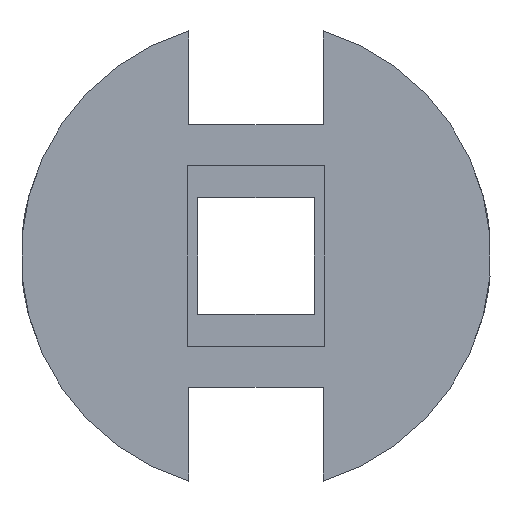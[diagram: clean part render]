
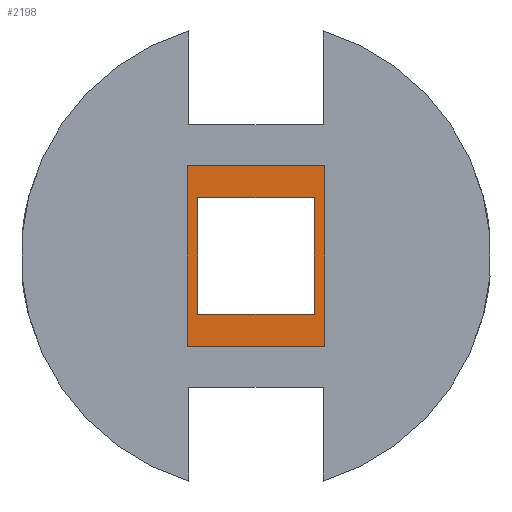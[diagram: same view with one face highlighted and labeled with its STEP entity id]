
A CAD part, left-side view. The second image highlights one B-rep face of the part: STEP entity #2198.
In plain terms, the highlighted planar face has unit normal (-1, 0, 0).
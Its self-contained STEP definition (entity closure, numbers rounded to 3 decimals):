
#749 = PLANE('',#750);
#750 = AXIS2_PLACEMENT_3D('',#751,#752,#753);
#751 = CARTESIAN_POINT('',(135.7,-4.7,-6.2));
#752 = DIRECTION('',(0.,0.,1.));
#753 = DIRECTION('',(1.,0.,-0.));
#775 = PLANE('',#776);
#776 = AXIS2_PLACEMENT_3D('',#777,#778,#779);
#777 = CARTESIAN_POINT('',(135.7,-4.7,-6.2));
#778 = DIRECTION('',(-0.,1.,0.));
#779 = DIRECTION('',(0.,0.,1.));
#801 = PLANE('',#802);
#802 = AXIS2_PLACEMENT_3D('',#803,#804,#805);
#803 = CARTESIAN_POINT('',(135.7,-4.7,6.2));
#804 = DIRECTION('',(0.,0.,1.));
#805 = DIRECTION('',(1.,0.,-0.));
#825 = PLANE('',#826);
#826 = AXIS2_PLACEMENT_3D('',#827,#828,#829);
#827 = CARTESIAN_POINT('',(135.7,4.7,-6.2));
#828 = DIRECTION('',(-0.,1.,0.));
#829 = DIRECTION('',(0.,0.,1.));
#991 = PLANE('',#992);
#992 = AXIS2_PLACEMENT_3D('',#993,#994,#995);
#993 = CARTESIAN_POINT('',(135.7,-4.,-4.));
#994 = DIRECTION('',(0.,0.,1.));
#995 = DIRECTION('',(1.,0.,-0.));
#1017 = PLANE('',#1018);
#1018 = AXIS2_PLACEMENT_3D('',#1019,#1020,#1021);
#1019 = CARTESIAN_POINT('',(135.7,-4.,-4.));
#1020 = DIRECTION('',(-0.,1.,0.));
#1021 = DIRECTION('',(0.,0.,1.));
#1043 = PLANE('',#1044);
#1044 = AXIS2_PLACEMENT_3D('',#1045,#1046,#1047);
#1045 = CARTESIAN_POINT('',(135.7,-4.,4.));
#1046 = DIRECTION('',(0.,0.,1.));
#1047 = DIRECTION('',(1.,0.,-0.));
#1067 = PLANE('',#1068);
#1068 = AXIS2_PLACEMENT_3D('',#1069,#1070,#1071);
#1069 = CARTESIAN_POINT('',(135.7,4.,-4.));
#1070 = DIRECTION('',(-0.,1.,0.));
#1071 = DIRECTION('',(0.,0.,1.));
#1696 = VERTEX_POINT('',#1697);
#1697 = CARTESIAN_POINT('',(139.1,4.7,-6.2));
#1720 = VERTEX_POINT('',#1721);
#1721 = CARTESIAN_POINT('',(139.1,-4.7,-6.2));
#1742 = EDGE_CURVE('',#1720,#1696,#1743,.T.);
#1743 = SURFACE_CURVE('',#1744,(#1748,#1755),.PCURVE_S1.);
#1744 = LINE('',#1745,#1746);
#1745 = CARTESIAN_POINT('',(139.1,-4.7,-6.2));
#1746 = VECTOR('',#1747,1.);
#1747 = DIRECTION('',(-0.,1.,0.));
#1748 = PCURVE('',#749,#1749);
#1749 = DEFINITIONAL_REPRESENTATION('',(#1750),#1754);
#1750 = LINE('',#1751,#1752);
#1751 = CARTESIAN_POINT('',(3.4,0.));
#1752 = VECTOR('',#1753,1.);
#1753 = DIRECTION('',(0.,1.));
#1754 = ( GEOMETRIC_REPRESENTATION_CONTEXT(2) 
PARAMETRIC_REPRESENTATION_CONTEXT() REPRESENTATION_CONTEXT('2D SPACE',''
  ) );
#1755 = PCURVE('',#1756,#1761);
#1756 = PLANE('',#1757);
#1757 = AXIS2_PLACEMENT_3D('',#1758,#1759,#1760);
#1758 = CARTESIAN_POINT('',(139.1,-4.7,-6.2));
#1759 = DIRECTION('',(1.,0.,-0.));
#1760 = DIRECTION('',(0.,0.,1.));
#1761 = DEFINITIONAL_REPRESENTATION('',(#1762),#1766);
#1762 = LINE('',#1763,#1764);
#1763 = CARTESIAN_POINT('',(0.,0.));
#1764 = VECTOR('',#1765,1.);
#1765 = DIRECTION('',(0.,-1.));
#1766 = ( GEOMETRIC_REPRESENTATION_CONTEXT(2) 
PARAMETRIC_REPRESENTATION_CONTEXT() REPRESENTATION_CONTEXT('2D SPACE',''
  ) );
#1774 = VERTEX_POINT('',#1775);
#1775 = CARTESIAN_POINT('',(139.1,4.7,6.2));
#1796 = EDGE_CURVE('',#1696,#1774,#1797,.T.);
#1797 = SURFACE_CURVE('',#1798,(#1802,#1809),.PCURVE_S1.);
#1798 = LINE('',#1799,#1800);
#1799 = CARTESIAN_POINT('',(139.1,4.7,-6.2));
#1800 = VECTOR('',#1801,1.);
#1801 = DIRECTION('',(0.,0.,1.));
#1802 = PCURVE('',#825,#1803);
#1803 = DEFINITIONAL_REPRESENTATION('',(#1804),#1808);
#1804 = LINE('',#1805,#1806);
#1805 = CARTESIAN_POINT('',(0.,3.4));
#1806 = VECTOR('',#1807,1.);
#1807 = DIRECTION('',(1.,0.));
#1808 = ( GEOMETRIC_REPRESENTATION_CONTEXT(2) 
PARAMETRIC_REPRESENTATION_CONTEXT() REPRESENTATION_CONTEXT('2D SPACE',''
  ) );
#1809 = PCURVE('',#1756,#1810);
#1810 = DEFINITIONAL_REPRESENTATION('',(#1811),#1815);
#1811 = LINE('',#1812,#1813);
#1812 = CARTESIAN_POINT('',(0.,-9.4));
#1813 = VECTOR('',#1814,1.);
#1814 = DIRECTION('',(1.,0.));
#1815 = ( GEOMETRIC_REPRESENTATION_CONTEXT(2) 
PARAMETRIC_REPRESENTATION_CONTEXT() REPRESENTATION_CONTEXT('2D SPACE',''
  ) );
#1823 = VERTEX_POINT('',#1824);
#1824 = CARTESIAN_POINT('',(139.1,-4.7,6.2));
#1845 = EDGE_CURVE('',#1720,#1823,#1846,.T.);
#1846 = SURFACE_CURVE('',#1847,(#1851,#1858),.PCURVE_S1.);
#1847 = LINE('',#1848,#1849);
#1848 = CARTESIAN_POINT('',(139.1,-4.7,-6.2));
#1849 = VECTOR('',#1850,1.);
#1850 = DIRECTION('',(0.,0.,1.));
#1851 = PCURVE('',#775,#1852);
#1852 = DEFINITIONAL_REPRESENTATION('',(#1853),#1857);
#1853 = LINE('',#1854,#1855);
#1854 = CARTESIAN_POINT('',(0.,3.4));
#1855 = VECTOR('',#1856,1.);
#1856 = DIRECTION('',(1.,0.));
#1857 = ( GEOMETRIC_REPRESENTATION_CONTEXT(2) 
PARAMETRIC_REPRESENTATION_CONTEXT() REPRESENTATION_CONTEXT('2D SPACE',''
  ) );
#1858 = PCURVE('',#1756,#1859);
#1859 = DEFINITIONAL_REPRESENTATION('',(#1860),#1864);
#1860 = LINE('',#1861,#1862);
#1861 = CARTESIAN_POINT('',(0.,0.));
#1862 = VECTOR('',#1863,1.);
#1863 = DIRECTION('',(1.,0.));
#1864 = ( GEOMETRIC_REPRESENTATION_CONTEXT(2) 
PARAMETRIC_REPRESENTATION_CONTEXT() REPRESENTATION_CONTEXT('2D SPACE',''
  ) );
#1872 = EDGE_CURVE('',#1823,#1774,#1873,.T.);
#1873 = SURFACE_CURVE('',#1874,(#1878,#1885),.PCURVE_S1.);
#1874 = LINE('',#1875,#1876);
#1875 = CARTESIAN_POINT('',(139.1,-4.7,6.2));
#1876 = VECTOR('',#1877,1.);
#1877 = DIRECTION('',(-0.,1.,0.));
#1878 = PCURVE('',#801,#1879);
#1879 = DEFINITIONAL_REPRESENTATION('',(#1880),#1884);
#1880 = LINE('',#1881,#1882);
#1881 = CARTESIAN_POINT('',(3.4,0.));
#1882 = VECTOR('',#1883,1.);
#1883 = DIRECTION('',(0.,1.));
#1884 = ( GEOMETRIC_REPRESENTATION_CONTEXT(2) 
PARAMETRIC_REPRESENTATION_CONTEXT() REPRESENTATION_CONTEXT('2D SPACE',''
  ) );
#1885 = PCURVE('',#1756,#1886);
#1886 = DEFINITIONAL_REPRESENTATION('',(#1887),#1891);
#1887 = LINE('',#1888,#1889);
#1888 = CARTESIAN_POINT('',(12.4,0.));
#1889 = VECTOR('',#1890,1.);
#1890 = DIRECTION('',(0.,-1.));
#1891 = ( GEOMETRIC_REPRESENTATION_CONTEXT(2) 
PARAMETRIC_REPRESENTATION_CONTEXT() REPRESENTATION_CONTEXT('2D SPACE',''
  ) );
#1897 = VERTEX_POINT('',#1898);
#1898 = CARTESIAN_POINT('',(139.1,4.,-4.));
#1919 = EDGE_CURVE('',#1920,#1897,#1922,.T.);
#1920 = VERTEX_POINT('',#1921);
#1921 = CARTESIAN_POINT('',(139.1,-4.,-4.));
#1922 = SURFACE_CURVE('',#1923,(#1927,#1933),.PCURVE_S1.);
#1923 = LINE('',#1924,#1925);
#1924 = CARTESIAN_POINT('',(139.1,-4.35,-4.));
#1925 = VECTOR('',#1926,1.);
#1926 = DIRECTION('',(-0.,1.,0.));
#1927 = PCURVE('',#991,#1928);
#1928 = DEFINITIONAL_REPRESENTATION('',(#1929),#1932);
#1929 = B_SPLINE_CURVE_WITH_KNOTS('',1,(#1930,#1931),.UNSPECIFIED.,.F.,
  .F.,(2,2),(0.35,8.35),.PIECEWISE_BEZIER_KNOTS.);
#1930 = CARTESIAN_POINT('',(3.4,0.));
#1931 = CARTESIAN_POINT('',(3.4,8.));
#1932 = ( GEOMETRIC_REPRESENTATION_CONTEXT(2) 
PARAMETRIC_REPRESENTATION_CONTEXT() REPRESENTATION_CONTEXT('2D SPACE',''
  ) );
#1933 = PCURVE('',#1756,#1934);
#1934 = DEFINITIONAL_REPRESENTATION('',(#1935),#1938);
#1935 = B_SPLINE_CURVE_WITH_KNOTS('',1,(#1936,#1937),.UNSPECIFIED.,.F.,
  .F.,(2,2),(0.35,8.35),.PIECEWISE_BEZIER_KNOTS.);
#1936 = CARTESIAN_POINT('',(2.2,-0.7));
#1937 = CARTESIAN_POINT('',(2.2,-8.7));
#1938 = ( GEOMETRIC_REPRESENTATION_CONTEXT(2) 
PARAMETRIC_REPRESENTATION_CONTEXT() REPRESENTATION_CONTEXT('2D SPACE',''
  ) );
#1966 = EDGE_CURVE('',#1967,#1897,#1969,.T.);
#1967 = VERTEX_POINT('',#1968);
#1968 = CARTESIAN_POINT('',(139.1,4.,4.));
#1969 = SURFACE_CURVE('',#1970,(#1974,#1980),.PCURVE_S1.);
#1970 = LINE('',#1971,#1972);
#1971 = CARTESIAN_POINT('',(139.1,4.,-5.1));
#1972 = VECTOR('',#1973,1.);
#1973 = DIRECTION('',(-0.,0.,-1.));
#1974 = PCURVE('',#1067,#1975);
#1975 = DEFINITIONAL_REPRESENTATION('',(#1976),#1979);
#1976 = B_SPLINE_CURVE_WITH_KNOTS('',1,(#1977,#1978),.UNSPECIFIED.,.F.,
  .F.,(2,2),(-9.1,-1.1),.PIECEWISE_BEZIER_KNOTS.);
#1977 = CARTESIAN_POINT('',(8.,3.4));
#1978 = CARTESIAN_POINT('',(0.,3.4));
#1979 = ( GEOMETRIC_REPRESENTATION_CONTEXT(2) 
PARAMETRIC_REPRESENTATION_CONTEXT() REPRESENTATION_CONTEXT('2D SPACE',''
  ) );
#1980 = PCURVE('',#1756,#1981);
#1981 = DEFINITIONAL_REPRESENTATION('',(#1982),#1985);
#1982 = B_SPLINE_CURVE_WITH_KNOTS('',1,(#1983,#1984),.UNSPECIFIED.,.F.,
  .F.,(2,2),(-9.1,-1.1),.PIECEWISE_BEZIER_KNOTS.);
#1983 = CARTESIAN_POINT('',(10.2,-8.7));
#1984 = CARTESIAN_POINT('',(2.2,-8.7));
#1985 = ( GEOMETRIC_REPRESENTATION_CONTEXT(2) 
PARAMETRIC_REPRESENTATION_CONTEXT() REPRESENTATION_CONTEXT('2D SPACE',''
  ) );
#2013 = EDGE_CURVE('',#2014,#1920,#2016,.T.);
#2014 = VERTEX_POINT('',#2015);
#2015 = CARTESIAN_POINT('',(139.1,-4.,4.));
#2016 = SURFACE_CURVE('',#2017,(#2021,#2027),.PCURVE_S1.);
#2017 = LINE('',#2018,#2019);
#2018 = CARTESIAN_POINT('',(139.1,-4.,-5.1));
#2019 = VECTOR('',#2020,1.);
#2020 = DIRECTION('',(-0.,0.,-1.));
#2021 = PCURVE('',#1017,#2022);
#2022 = DEFINITIONAL_REPRESENTATION('',(#2023),#2026);
#2023 = B_SPLINE_CURVE_WITH_KNOTS('',1,(#2024,#2025),.UNSPECIFIED.,.F.,
  .F.,(2,2),(-9.1,-1.1),.PIECEWISE_BEZIER_KNOTS.);
#2024 = CARTESIAN_POINT('',(8.,3.4));
#2025 = CARTESIAN_POINT('',(0.,3.4));
#2026 = ( GEOMETRIC_REPRESENTATION_CONTEXT(2) 
PARAMETRIC_REPRESENTATION_CONTEXT() REPRESENTATION_CONTEXT('2D SPACE',''
  ) );
#2027 = PCURVE('',#1756,#2028);
#2028 = DEFINITIONAL_REPRESENTATION('',(#2029),#2032);
#2029 = B_SPLINE_CURVE_WITH_KNOTS('',1,(#2030,#2031),.UNSPECIFIED.,.F.,
  .F.,(2,2),(-9.1,-1.1),.PIECEWISE_BEZIER_KNOTS.);
#2030 = CARTESIAN_POINT('',(10.2,-0.7));
#2031 = CARTESIAN_POINT('',(2.2,-0.7));
#2032 = ( GEOMETRIC_REPRESENTATION_CONTEXT(2) 
PARAMETRIC_REPRESENTATION_CONTEXT() REPRESENTATION_CONTEXT('2D SPACE',''
  ) );
#2060 = EDGE_CURVE('',#2014,#1967,#2061,.T.);
#2061 = SURFACE_CURVE('',#2062,(#2066,#2072),.PCURVE_S1.);
#2062 = LINE('',#2063,#2064);
#2063 = CARTESIAN_POINT('',(139.1,-4.35,4.));
#2064 = VECTOR('',#2065,1.);
#2065 = DIRECTION('',(-0.,1.,0.));
#2066 = PCURVE('',#1043,#2067);
#2067 = DEFINITIONAL_REPRESENTATION('',(#2068),#2071);
#2068 = B_SPLINE_CURVE_WITH_KNOTS('',1,(#2069,#2070),.UNSPECIFIED.,.F.,
  .F.,(2,2),(0.35,8.35),.PIECEWISE_BEZIER_KNOTS.);
#2069 = CARTESIAN_POINT('',(3.4,0.));
#2070 = CARTESIAN_POINT('',(3.4,8.));
#2071 = ( GEOMETRIC_REPRESENTATION_CONTEXT(2) 
PARAMETRIC_REPRESENTATION_CONTEXT() REPRESENTATION_CONTEXT('2D SPACE',''
  ) );
#2072 = PCURVE('',#1756,#2073);
#2073 = DEFINITIONAL_REPRESENTATION('',(#2074),#2077);
#2074 = B_SPLINE_CURVE_WITH_KNOTS('',1,(#2075,#2076),.UNSPECIFIED.,.F.,
  .F.,(2,2),(0.35,8.35),.PIECEWISE_BEZIER_KNOTS.);
#2075 = CARTESIAN_POINT('',(10.2,-0.7));
#2076 = CARTESIAN_POINT('',(10.2,-8.7));
#2077 = ( GEOMETRIC_REPRESENTATION_CONTEXT(2) 
PARAMETRIC_REPRESENTATION_CONTEXT() REPRESENTATION_CONTEXT('2D SPACE',''
  ) );
#2198 = ADVANCED_FACE('',(#2199,#2205),#1756,.F.);
#2199 = FACE_BOUND('',#2200,.F.);
#2200 = EDGE_LOOP('',(#2201,#2202,#2203,#2204));
#2201 = ORIENTED_EDGE('',*,*,#1845,.F.);
#2202 = ORIENTED_EDGE('',*,*,#1742,.T.);
#2203 = ORIENTED_EDGE('',*,*,#1796,.T.);
#2204 = ORIENTED_EDGE('',*,*,#1872,.F.);
#2205 = FACE_BOUND('',#2206,.F.);
#2206 = EDGE_LOOP('',(#2207,#2208,#2209,#2210));
#2207 = ORIENTED_EDGE('',*,*,#1919,.F.);
#2208 = ORIENTED_EDGE('',*,*,#2013,.F.);
#2209 = ORIENTED_EDGE('',*,*,#2060,.T.);
#2210 = ORIENTED_EDGE('',*,*,#1966,.T.);
